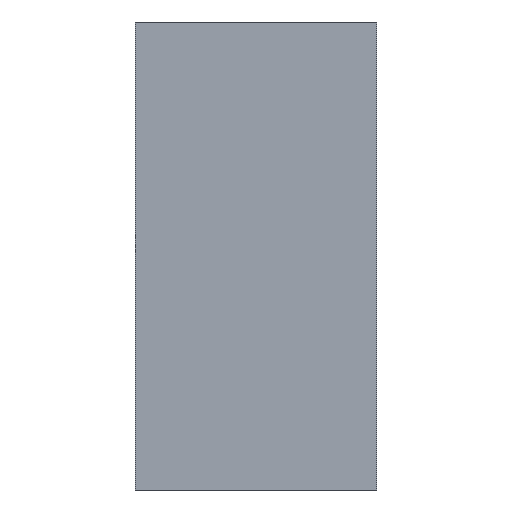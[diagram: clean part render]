
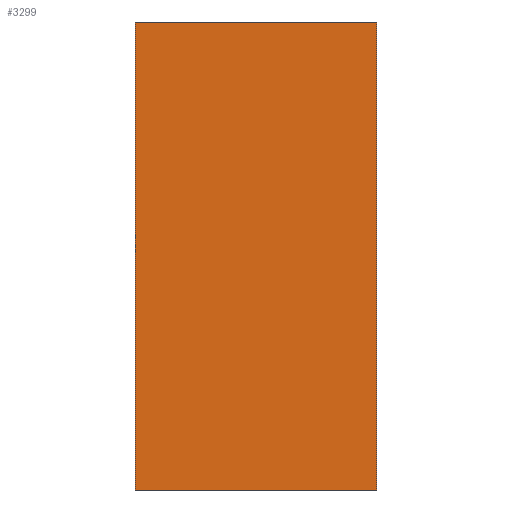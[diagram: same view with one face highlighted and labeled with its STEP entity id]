
A CAD part, front view. The second image highlights one B-rep face of the part: STEP entity #3299.
In plain terms, the highlighted planar face has unit normal (0, -1, 0).
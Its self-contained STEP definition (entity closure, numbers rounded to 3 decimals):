
#264=FACE_OUTER_BOUND('',#446,.T.);
#446=EDGE_LOOP('',(#2195,#2196,#2197,#2198));
#634=LINE('',#4857,#997);
#638=LINE('',#4865,#1001);
#641=LINE('',#4871,#1004);
#644=LINE('',#4876,#1007);
#997=VECTOR('',#3838,10.);
#1001=VECTOR('',#3844,10.);
#1004=VECTOR('',#3849,10.);
#1007=VECTOR('',#3854,10.);
#1360=VERTEX_POINT('',#4855);
#1361=VERTEX_POINT('',#4856);
#1364=VERTEX_POINT('',#4864);
#1366=VERTEX_POINT('',#4870);
#1680=EDGE_CURVE('',#1360,#1361,#634,.T.);
#1684=EDGE_CURVE('',#1361,#1364,#638,.T.);
#1687=EDGE_CURVE('',#1364,#1366,#641,.T.);
#1690=EDGE_CURVE('',#1366,#1360,#644,.T.);
#2195=ORIENTED_EDGE('',*,*,#1690,.T.);
#2196=ORIENTED_EDGE('',*,*,#1680,.T.);
#2197=ORIENTED_EDGE('',*,*,#1684,.T.);
#2198=ORIENTED_EDGE('',*,*,#1687,.T.);
#3170=PLANE('',#3509);
#3299=ADVANCED_FACE('',(#264),#3170,.F.);
#3509=AXIS2_PLACEMENT_3D('',#4879,#3858,#3859);
#3838=DIRECTION('',(0.,0.,-1.));
#3844=DIRECTION('',(1.,0.,0.));
#3849=DIRECTION('',(0.,0.,1.));
#3854=DIRECTION('',(-1.,0.,0.));
#3858=DIRECTION('center_axis',(0.,1.,0.));
#3859=DIRECTION('ref_axis',(1.,0.,0.));
#4855=CARTESIAN_POINT('',(0.,0.,45.));
#4856=CARTESIAN_POINT('',(0.,0.,0.));
#4857=CARTESIAN_POINT('',(0.,0.,45.));
#4864=CARTESIAN_POINT('',(23.2,0.,0.));
#4865=CARTESIAN_POINT('',(0.,0.,0.));
#4870=CARTESIAN_POINT('',(23.2,0.,45.));
#4871=CARTESIAN_POINT('',(23.2,0.,0.));
#4876=CARTESIAN_POINT('',(23.2,0.,45.));
#4879=CARTESIAN_POINT('Origin',(11.6,0.,22.5));
